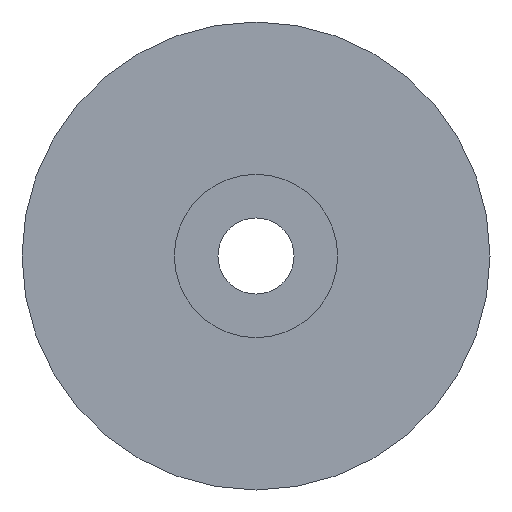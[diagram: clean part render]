
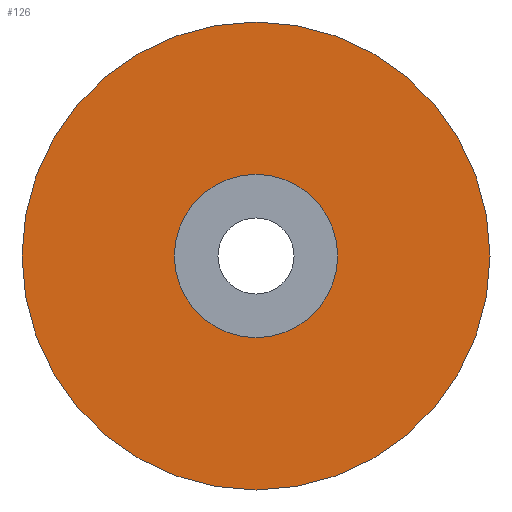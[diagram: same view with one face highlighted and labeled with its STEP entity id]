
A CAD part, front view. The second image highlights one B-rep face of the part: STEP entity #126.
In plain terms, the highlighted planar face has unit normal (0, -1, 0).
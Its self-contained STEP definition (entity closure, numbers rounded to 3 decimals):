
#1=CARTESIAN_POINT('',(0.,0.,0.));
#2=DIRECTION('',(0.,1.,0.));
#3=DIRECTION('',(1.,0.,0.));
#4=AXIS2_PLACEMENT_3D('',#1,#2,#3);
#6=CARTESIAN_POINT('',(0.,0.,0.));
#7=DIRECTION('',(0.,1.,0.));
#8=DIRECTION('',(-1.,0.,0.));
#9=AXIS2_PLACEMENT_3D('',#6,#7,#8);
#11=CARTESIAN_POINT('',(0.,0.,0.));
#12=DIRECTION('',(0.,-1.,0.));
#13=DIRECTION('',(1.,0.,0.));
#14=AXIS2_PLACEMENT_3D('',#11,#12,#13);
#16=CARTESIAN_POINT('',(0.,0.,0.));
#17=DIRECTION('',(0.,-1.,0.));
#18=DIRECTION('',(-1.,0.,0.));
#19=AXIS2_PLACEMENT_3D('',#16,#17,#18);
#85=CARTESIAN_POINT('',(21.5,0.,0.));
#86=CARTESIAN_POINT('',(-21.5,0.,0.));
#87=VERTEX_POINT('',#85);
#88=VERTEX_POINT('',#86);
#97=CARTESIAN_POINT('',(7.5,0.,0.));
#98=CARTESIAN_POINT('',(-7.5,0.,0.));
#99=VERTEX_POINT('',#97);
#100=VERTEX_POINT('',#98);
#109=CARTESIAN_POINT('',(0.,0.,0.));
#110=DIRECTION('',(0.,1.,0.));
#111=DIRECTION('',(1.,0.,0.));
#112=AXIS2_PLACEMENT_3D('',#109,#110,#111);
#113=PLANE('',#112);
#115=ORIENTED_EDGE('',*,*,#114,.T.);
#117=ORIENTED_EDGE('',*,*,#116,.T.);
#118=EDGE_LOOP('',(#115,#117));
#119=FACE_OUTER_BOUND('',#118,.F.);
#121=ORIENTED_EDGE('',*,*,#120,.T.);
#123=ORIENTED_EDGE('',*,*,#122,.T.);
#124=EDGE_LOOP('',(#121,#123));
#125=FACE_BOUND('',#124,.F.);
#126=ADVANCED_FACE('',(#119,#125),#113,.F.);
#5=CIRCLE('',#4,21.5);
#10=CIRCLE('',#9,21.5);
#15=CIRCLE('',#14,7.5);
#20=CIRCLE('',#19,7.5);
#114=EDGE_CURVE('',#87,#88,#5,.T.);
#116=EDGE_CURVE('',#88,#87,#10,.T.);
#120=EDGE_CURVE('',#99,#100,#15,.T.);
#122=EDGE_CURVE('',#100,#99,#20,.T.);
